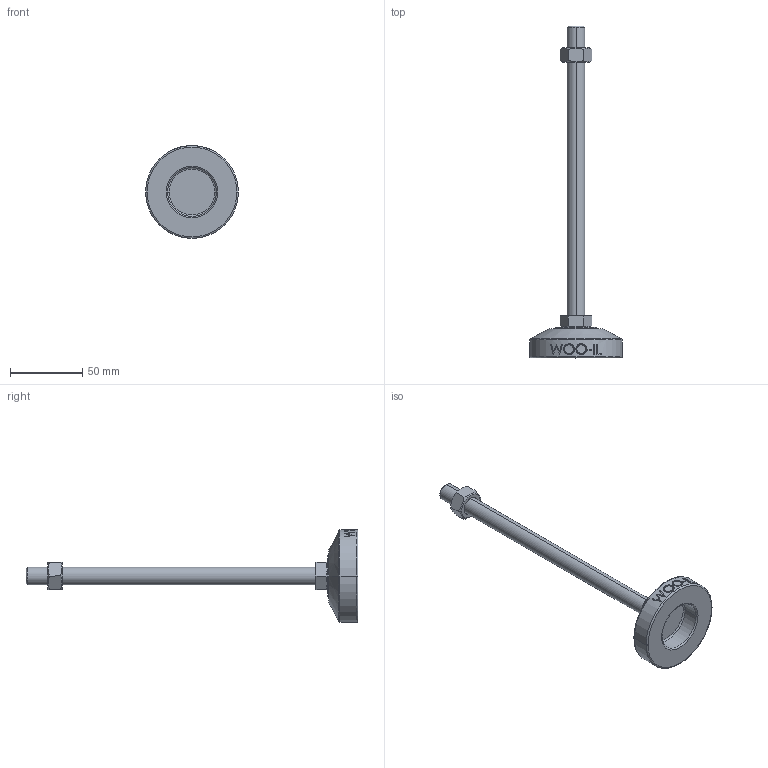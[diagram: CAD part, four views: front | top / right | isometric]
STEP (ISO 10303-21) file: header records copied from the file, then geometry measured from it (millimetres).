
FILE_DESCRIPTION (( 'STEP AP214' ), '1' );
FILE_NAME ('MFZ64-M12-200.step', '2021-01-15T07:05:32', ( '' ), ( '' ), 'SwSTEP 2.0', 'SolidWorks 2019', '' );
FILE_SCHEMA (( 'AUTOMOTIVE_DESIGN' ));
Length unit declared in the file: millimetre
Products named in the file (2): MFZ64-M12-200
Bounding box: 64 x 229 x 64 mm (x, y, z)
Volume: 72665.3 mm3; surface area: 20548.7 mm2
Topology: 3 solids, 3 shells, 106 faces, 243 edges, 154 vertices
Faces by surface type: plane 48, cylinder 18, bspline 16, cone 14, torus 10
Entity records: 4520 total; most frequent: CARTESIAN_POINT 2177, ORIENTED_EDGE 486, DIRECTION 439, EDGE_CURVE 243, AXIS2_PLACEMENT_3D 170, VERTEX_POINT 154, EDGE_LOOP 119, FACE_OUTER_BOUND 106
